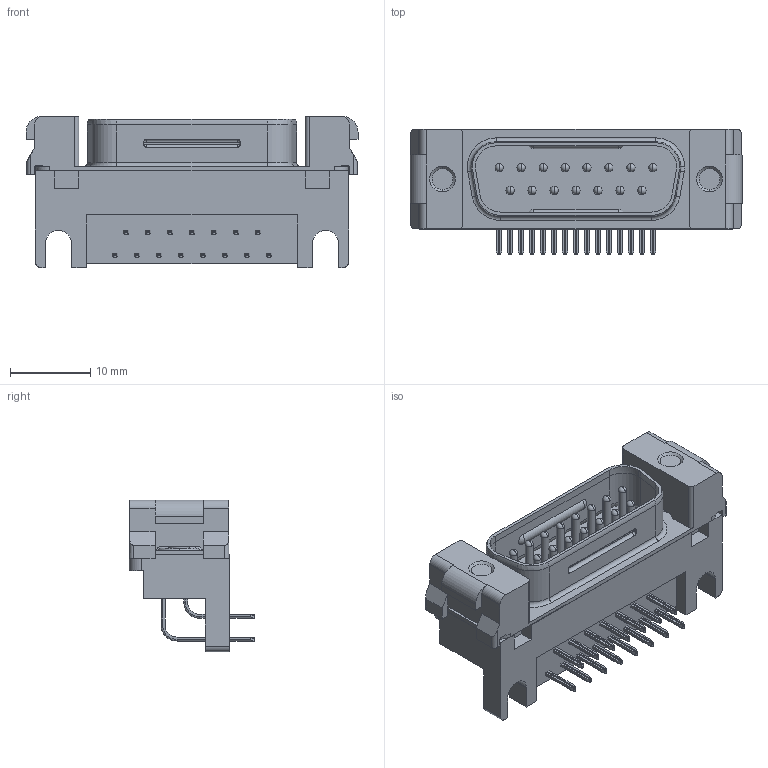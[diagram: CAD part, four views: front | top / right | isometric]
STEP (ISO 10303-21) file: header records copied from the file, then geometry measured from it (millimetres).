
FILE_DESCRIPTION (( 'STEP AP203' ), '1' );
FILE_NAME ('17LE-23150-27(D2A)-FA.STEP', '2022-01-24T11:15:39', ( '' ), ( '' ), 'SwSTEP 2.0', 'SolidWorks 2018', '' );
FILE_SCHEMA (( 'CONFIG_CONTROL_DESIGN' ));
Length unit declared in the file: millimetre
Products named in the file (1): 17LE-23150-27(D2A)-FA
Bounding box: 41.42 x 15.69 x 18.9 mm (x, y, z)
Volume: 4052.9 mm3; surface area: 4774.9 mm2
Topology: 1 solids, 3 shells, 1055 faces, 2874 edges, 1831 vertices
Faces by surface type: plane 484, cylinder 407, torus 122, sphere 34, cone 8
Entity records: 33687 total; most frequent: CARTESIAN_POINT 6401, DIRECTION 5890, ORIENTED_EDGE 5672, EDGE_CURVE 2836, AXIS2_PLACEMENT_3D 2100, VERTEX_POINT 1827, VECTOR 1690, LINE 1690
